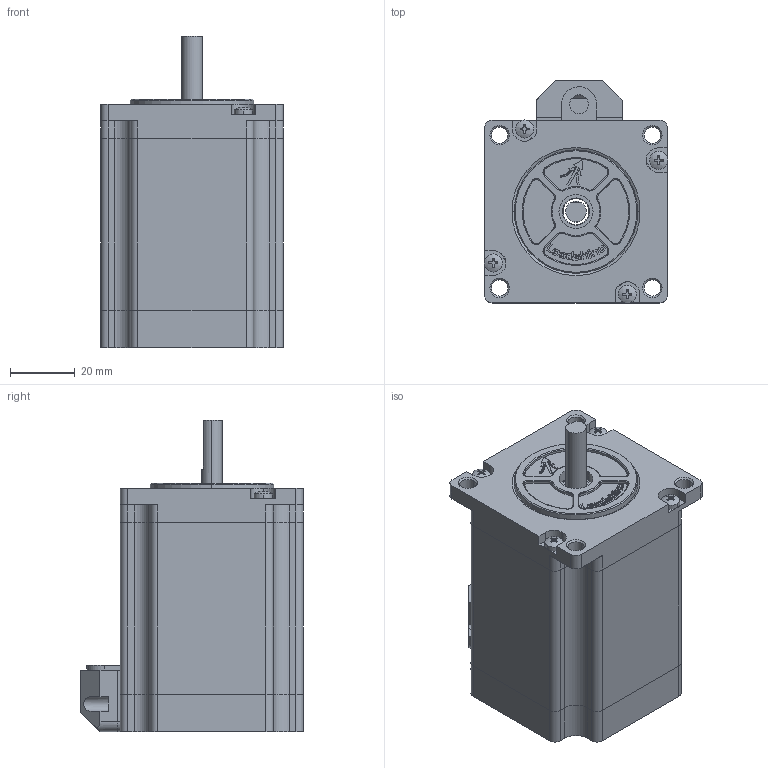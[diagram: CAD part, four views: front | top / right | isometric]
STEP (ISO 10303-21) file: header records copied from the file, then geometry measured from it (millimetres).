
FILE_DESCRIPTION (( 'STEP AP203' ), '1' );
FILE_NAME ('57CM23-0-I6.STEP', '2021-04-22T01:59:18', ( 'Owner' ), ( 'Organization' ), 'SwSTEP 2.0', 'SolidWorks 2018', '' );
FILE_SCHEMA (( 'CONFIG_CONTROL_DESIGN' ));
Length unit declared in the file: millimetre
Products named in the file (9): 1_2_05_130022_4_Default_3_Default; 压线垫（3D)_Default_3_Default; 2_4_Default_3_Default; 57CM23-0-I6; 1_2_04_680006_4_Default_3_Default; 3_4_Default_3_Default; 1_1_04_EB572-359_4_Default_3_Default; 1_1_02_EB571-152_4_Default_3_Default; 压线盖（3D)_Default_3_Default
Assembly tree (15 placements, depth 2):
  57CM23-0-I6
    1_1_04_EB572-359_4_Default_3_Default
    1_1_02_EB571-152_4_Default_3_Default
    1_2_05_130022_4_Default_3_Default  x8
    3_4_Default_3_Default
    压线盖（3D)_Default_3_Default
    2_4_Default_3_Default
    1_2_04_680006_4_Default_3_Default
    压线垫（3D)_Default_3_Default
Bounding box: 56.54 x 68.77 x 96 mm (x, y, z)
Volume: 127618.1 mm3; surface area: 59991.4 mm2
Topology: 6 solids, 27 shells, 1580 faces, 4244 edges, 2789 vertices
Faces by surface type: plane 1023, cylinder 307, bspline 152, torus 54, cone 36, sphere 8
Entity records: 47743 total; most frequent: CARTESIAN_POINT 13865, ORIENTED_EDGE 7152, DIRECTION 6158, EDGE_CURVE 3586, LINE 2658, VECTOR 2658, VERTEX_POINT 2369, AXIS2_PLACEMENT_3D 1750
